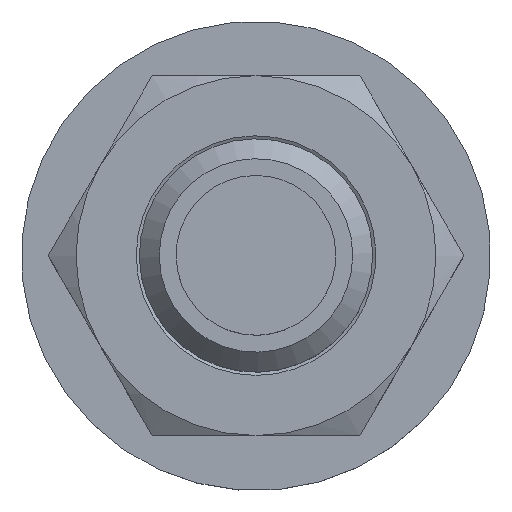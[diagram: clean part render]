
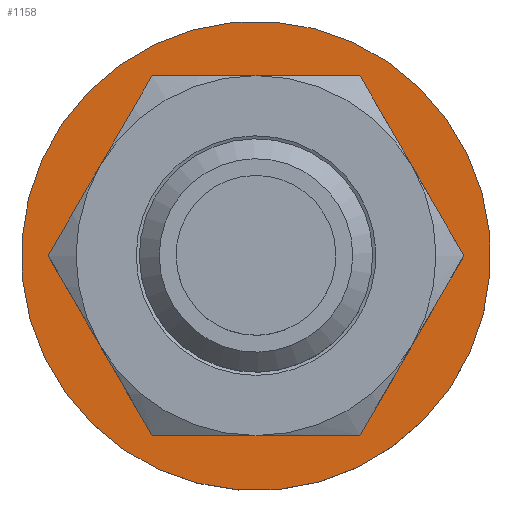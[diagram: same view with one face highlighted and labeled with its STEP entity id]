
A CAD part, top view. The second image highlights one B-rep face of the part: STEP entity #1158.
In plain terms, the highlighted planar face has unit normal (0, 0, 1).
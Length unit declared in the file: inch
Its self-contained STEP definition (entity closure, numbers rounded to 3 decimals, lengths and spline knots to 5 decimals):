
#196=FACE_BOUND('',#303,.T.);
#225=FACE_OUTER_BOUND('',#302,.T.);
#302=EDGE_LOOP('',(#733));
#303=EDGE_LOOP('',(#734,#735,#736,#737,#738,#739));
#408=CIRCLE('',#1238,0.367);
#409=CIRCLE('',#1239,0.2815);
#410=CIRCLE('',#1240,0.2815);
#411=CIRCLE('',#1241,0.2815);
#412=CIRCLE('',#1242,0.2815);
#413=CIRCLE('',#1243,0.2815);
#414=CIRCLE('',#1244,0.2815);
#473=VERTEX_POINT('',#1719);
#474=VERTEX_POINT('',#1721);
#475=VERTEX_POINT('',#1722);
#476=VERTEX_POINT('',#1724);
#477=VERTEX_POINT('',#1726);
#478=VERTEX_POINT('',#1728);
#479=VERTEX_POINT('',#1730);
#578=EDGE_CURVE('',#473,#473,#408,.T.);
#579=EDGE_CURVE('',#474,#475,#409,.T.);
#580=EDGE_CURVE('',#475,#476,#410,.T.);
#581=EDGE_CURVE('',#476,#477,#411,.T.);
#582=EDGE_CURVE('',#477,#478,#412,.T.);
#583=EDGE_CURVE('',#478,#479,#413,.T.);
#584=EDGE_CURVE('',#479,#474,#414,.T.);
#733=ORIENTED_EDGE('',*,*,#578,.T.);
#734=ORIENTED_EDGE('',*,*,#579,.T.);
#735=ORIENTED_EDGE('',*,*,#580,.T.);
#736=ORIENTED_EDGE('',*,*,#581,.T.);
#737=ORIENTED_EDGE('',*,*,#582,.T.);
#738=ORIENTED_EDGE('',*,*,#583,.T.);
#739=ORIENTED_EDGE('',*,*,#584,.T.);
#1043=PLANE('',#1237);
#1158=ADVANCED_FACE('',(#225,#196),#1043,.T.);
#1237=AXIS2_PLACEMENT_3D('',#1718,#1381,#1382);
#1238=AXIS2_PLACEMENT_3D('',#1720,#1383,#1384);
#1239=AXIS2_PLACEMENT_3D('',#1723,#1385,#1386);
#1240=AXIS2_PLACEMENT_3D('',#1725,#1387,#1388);
#1241=AXIS2_PLACEMENT_3D('',#1727,#1389,#1390);
#1242=AXIS2_PLACEMENT_3D('',#1729,#1391,#1392);
#1243=AXIS2_PLACEMENT_3D('',#1731,#1393,#1394);
#1244=AXIS2_PLACEMENT_3D('',#1732,#1395,#1396);
#1381=DIRECTION('center_axis',(0.,0.,
1.));
#1382=DIRECTION('ref_axis',(-0.969,0.247,0.));
#1383=DIRECTION('center_axis',(0.,0.,
1.));
#1384=DIRECTION('ref_axis',(0.247,0.969,0.));
#1385=DIRECTION('center_axis',(0.,0.,
-1.));
#1386=DIRECTION('ref_axis',(1.,0.,0.));
#1387=DIRECTION('center_axis',(0.,0.,
-1.));
#1388=DIRECTION('ref_axis',(1.,0.,0.));
#1389=DIRECTION('center_axis',(0.,0.,
-1.));
#1390=DIRECTION('ref_axis',(1.,0.,0.));
#1391=DIRECTION('center_axis',(0.,0.,
-1.));
#1392=DIRECTION('ref_axis',(1.,0.,0.));
#1393=DIRECTION('center_axis',(0.,0.,
-1.));
#1394=DIRECTION('ref_axis',(1.,0.,0.));
#1395=DIRECTION('center_axis',(0.,0.,
-1.));
#1396=DIRECTION('ref_axis',(1.,0.,0.));
#1718=CARTESIAN_POINT('Origin',(0.,0.,
2.938));
#1719=CARTESIAN_POINT('',(-0.09081,-0.35559,2.938));
#1720=CARTESIAN_POINT('Origin',(0.,0.,
2.938));
#1721=CARTESIAN_POINT('',(-0.24379,-0.14075,2.938));
#1722=CARTESIAN_POINT('',(-0.24379,0.14075,2.938));
#1723=CARTESIAN_POINT('Origin',(0.,0.,
2.938));
#1724=CARTESIAN_POINT('',(0.,0.2815,2.938));
#1725=CARTESIAN_POINT('Origin',(0.,0.,
2.938));
#1726=CARTESIAN_POINT('',(0.24379,0.14075,2.938));
#1727=CARTESIAN_POINT('Origin',(0.,0.,
2.938));
#1728=CARTESIAN_POINT('',(0.24379,-0.14075,2.938));
#1729=CARTESIAN_POINT('Origin',(0.,0.,
2.938));
#1730=CARTESIAN_POINT('',(0.,-0.2815,2.938));
#1731=CARTESIAN_POINT('Origin',(0.,0.,
2.938));
#1732=CARTESIAN_POINT('Origin',(0.,0.,
2.938));
